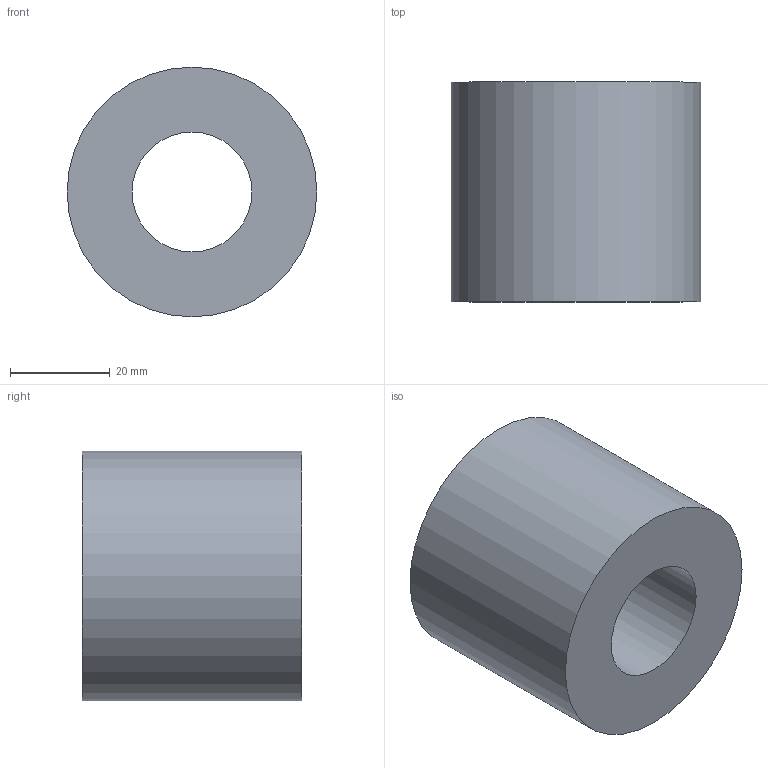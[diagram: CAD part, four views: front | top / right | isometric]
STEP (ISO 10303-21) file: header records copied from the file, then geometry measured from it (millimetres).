
FILE_DESCRIPTION(('Open CASCADE Model'),'2;1');
FILE_NAME('Open CASCADE Shape Model','2026-10-04T01:02:30',('Author'),( 'Open CASCADE'),'Open CASCADE STEP processor 8.0','Open CASCADE 8.0' ,'Unknown');
FILE_SCHEMA(('AUTOMOTIVE_DESIGN { 1 0 10303 214 1 1 1 1 }'));
Length unit declared in the file: millimetre
Products named in the file (1): Open CASCADE STEP translator 8.0 248
Bounding box: 50 x 44 x 50 mm (x, y, z)
Volume: 66488.7 mm3; surface area: 13251.2 mm2
Topology: 1 solids, 1 shells, 4 faces, 6 edges, 4 vertices
Faces by surface type: cylinder 2, plane 2
Full cylindrical faces by diameter (mm): 24 x1, 50 x1
Entity records: 186 total; most frequent: DIRECTION 32, CARTESIAN_POINT 27, ORIENTED_EDGE 12, PCURVE 12, DEFINITIONAL_REPRESENTATION 12, LINE 10, VECTOR 10, AXIS2_PLACEMENT_3D 9
